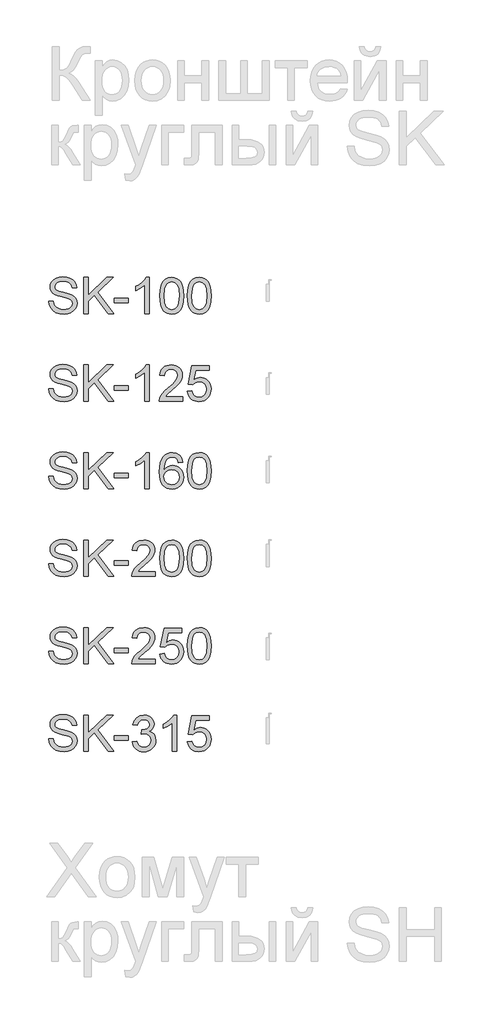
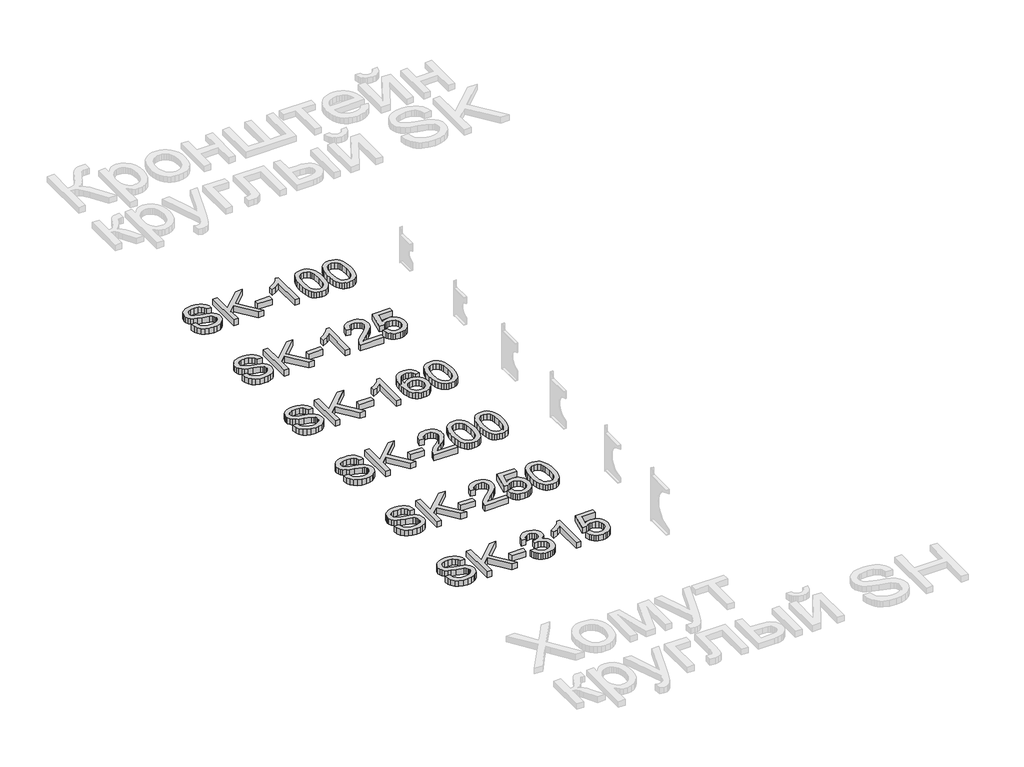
# One storey, part 5 of 31: 1 proxy.
"""IFC4 building model written with IfcOpenShell, lengths in millimetres."""

from ifc_helpers import new_model, si_unit, origin, origin_with_axes, place, context, project, spatial, polyline, outline, extrude, element, save

model = new_model("IFC4")

# Units and contexts
model_context = context("Model", 3, world=origin())
ifc_project = project(units=[si_unit("LENGTHUNIT", "METRE", prefix="MILLI")], contexts=[model_context])

# Site, building, storey
site = spatial("IfcSite", under=ifc_project)
building = spatial("IfcBuilding", under=site)
storey = spatial("IfcBuildingStorey", under=building, Name="Этаж 01", Elevation=0.0)

# Proxy
placement = place(None, origin())
element("IfcBuildingElementProxy", 1, Name="300 мм Arial", ObjectType="300 мм Arial", at=placement, inside=storey, context=model_context, shape_type="SweptSolid", body=[
    extrude(outline(polyline([(10389.7433415, -38401.6957444), (10427.4144578, -38401.6957444), (10431.7370713, -38422.6006388), (10439.5545637, -38439.4036489), (10451.7498518, -38452.7393712), (10469.2058525, -38463.2424022), (10490.5430082, -38470.0574161), (10514.3817615, -38472.3290875), (10535.3694293, -38470.6092391), (10553.745135, -38465.4496941), (10568.6351587, -38457.2827139), (10579.1657809, -38446.5405596), (10585.4289718, -38434.2073157), (10587.5167022, -38421.2670665), (10585.9532037, -38408.6579111), (10581.2627082, -38397.759407), (10571.7345646, -38388.4611896), (10555.6581214, -38380.6528943), (10500.8069159, -38366.2687082), (10464.8004656, -38356.7497616), (10441.7618557, -38347.6906675), (10423.009071, -38335.0171328), (10409.7193339, -38319.6580595), (10401.8006739, -38301.9445414), (10399.1611206, -38282.2076723), (10402.4260733, -38260.1439497), (10412.2209314, -38239.5701491), (10428.2881776, -38222.1325425), (10450.3702943, -38209.4774019), (10476.8761921, -38201.7794712), (10506.2147812, -38199.2134942), (10537.9997856, -38201.8990328), (10565.8116644, -38209.9556485), (10588.6571363, -38223.2177944), (10605.5429199, -38241.5199237), (10616.2298919, -38263.7216021), (10620.4789289, -38288.6823955), (10582.8078126, -38288.6823955), (10575.8916311, -38266.2048056), (10561.4706569, -38249.9812096), (10538.9378847, -38240.1587603), (10507.6863092, -38236.8846105), (10475.6989697, -38240.1219721), (10453.7548087, -38249.8340568), (10441.0628799, -38264.1262723), (10436.8322369, -38281.1040264), (10439.8304752, -38295.5801829), (10448.82519, -38307.223648), (10470.0887693, -38317.6347085), (10510.3350596, -38328.2664981), (10551.8689368, -38338.3648589), (10576.9952771, -38347.1756327), (10598.4703886, -38360.8424488), (10613.4523828, -38377.7098383), (10622.2539595, -38397.5938601), (10625.1878185, -38420.3105733), (10621.8125012, -38443.5331243), (10611.6865492, -38465.3761177), (10595.2238299, -38484.1748877), (10572.8382105, -38498.2647681), (10545.9184455, -38507.0663449), (10515.8532895, -38510.0002038), (10478.9455283, -38506.8364186), (10448.5676726, -38497.3450631), (10424.3702343, -38481.4893491), (10406.0037257, -38459.2324884), (10394.2131078, -38432.1195854), (10389.7433415, -38401.6957444)])), origin_with_axes(), (0.0, 0.0, 1.0), 50.0),
    extrude(outline(polyline([(10681.6944929, -38505.2913142), (10681.6944929, -38203.9223838), (10719.3656092, -38203.9223838), (10719.3656092, -38351.4430638), (10873.8760472, -38203.9223838), (10926.5567489, -38203.9223838), (10796.8415574, -38327.8250398), (10931.2656384, -38505.2913142), (10885.2068126, -38505.2913142), (10770.1333246, -38353.2824738), (10719.3656092, -38401.6957444), (10719.3656092, -38505.2913142), (10681.6944929, -38505.2913142)])), origin_with_axes(), (0.0, 0.0, 1.0), 50.0),
    extrude(outline(polyline([(10935.974528, -38415.822413), (10935.974528, -38378.1512967), (11053.6967664, -38378.1512967), (11053.6967664, -38415.822413), (10935.974528, -38415.822413)])), origin_with_axes(), (0.0, 0.0, 1.0), 50.0),
    extrude(outline(polyline([(11227.9256794, -38505.2913142), (11190.254563, -38505.2913142), (11190.254563, -38270.4354485), (11154.5700095, -38295.8560944), (11114.9123304, -38314.8755935), (11114.9123304, -38279.2646164), (11144.4992399, -38263.1697791), (11170.1314179, -38244.0215212), (11190.3373365, -38223.6592528), (11203.6454677, -38203.9223838), (11227.9256794, -38203.9223838), (11227.9256794, -38505.2913142)])), origin_with_axes(), (0.0, 0.0, 1.0), 50.0),
    extrude(outline(polyline([(11317.3945806, -38357.0348702), (11320.1628926, -38308.7963435), (11328.4678286, -38270.3250839), (11342.2266153, -38241.03248), (11361.356479, -38220.3299208), (11385.9953756, -38208.024268), (11416.2812609, -38203.9223838), (11439.4946148, -38206.3504049), (11460.2799475, -38213.6344684), (11477.6623718, -38225.4894657), (11490.6670003, -38241.6302883), (11500.4894496, -38261.9189803), (11508.3253361, -38286.2175861), (11513.4572899, -38317.0736884), (11515.1679412, -38357.0348702), (11512.4272203, -38404.9974853), (11504.2050577, -38443.3767744), (11490.5290446, -38472.6969695), (11471.426772, -38493.4823022), (11446.732693, -38505.8707284), (11416.2812609, -38510.0002038), (11395.5327164, -38508.206779), (11377.1386166, -38502.8265049), (11361.0989616, -38493.8593812), (11347.4137514, -38481.3054081), (11334.2803642, -38458.6116876), (11324.8993733, -38430.3353577), (11319.2707788, -38396.4764186), (11317.3945806, -38357.0348702)]), holes=[polyline([(11355.0656969, -38356.9612938), (11359.4802808, -38416.2178861), (11364.9985108, -38436.4858848), (11372.7240327, -38450.5136851), (11392.4425076, -38466.8752369), (11416.2812609, -38472.3290875), (11440.1200142, -38466.8568428), (11459.8384891, -38450.4401087), (11467.564011, -38436.3893158), (11473.0822409, -38416.1259156), (11477.4968249, -38356.9612938), (11473.2293937, -38299.0382736), (11467.8951048, -38278.8369536), (11460.4271003, -38264.4757602), (11440.7454136, -38247.3140651), (11415.8398025, -38241.5935001), (11392.2585666, -38246.6334834), (11373.3126438, -38261.7534334), (11365.3296046, -38277.3884182), (11359.6274336, -38298.4680565), (11355.0656969, -38356.9612938)])]), origin_with_axes(), (0.0, 0.0, 1.0), 50.0),
    extrude(outline(polyline([(11548.130168, -38357.0348702), (11550.89848, -38308.7963435), (11559.203416, -38270.3250839), (11572.9622026, -38241.03248), (11592.0920664, -38220.3299208), (11616.730963, -38208.024268), (11647.0168483, -38203.9223838), (11670.2302022, -38206.3504049), (11691.0155349, -38213.6344684), (11708.3979592, -38225.4894657), (11721.4025877, -38241.6302883), (11731.225037, -38261.9189803), (11739.0609235, -38286.2175861), (11744.1928773, -38317.0736884), (11745.9035286, -38357.0348702), (11743.1628077, -38404.9974853), (11734.9406451, -38443.3767744), (11721.2646319, -38472.6969695), (11702.1623593, -38493.4823022), (11677.4682804, -38505.8707284), (11647.0168483, -38510.0002038), (11626.2683037, -38508.206779), (11607.874204, -38502.8265049), (11591.834549, -38493.8593812), (11578.1493388, -38481.3054081), (11565.0159515, -38458.6116876), (11555.6349607, -38430.3353577), (11550.0063661, -38396.4764186), (11548.130168, -38357.0348702)]), holes=[polyline([(11585.8012843, -38356.9612938), (11590.2158682, -38416.2178861), (11595.7340981, -38436.4858848), (11603.45962, -38450.5136851), (11623.178095, -38466.8752369), (11647.0168483, -38472.3290875), (11670.8556015, -38466.8568428), (11690.5740765, -38450.4401087), (11698.2995984, -38436.3893158), (11703.8178283, -38416.1259156), (11708.2324123, -38356.9612938), (11703.9649811, -38299.0382736), (11698.6306922, -38278.8369536), (11691.1626877, -38264.4757602), (11671.4810009, -38247.3140651), (11646.5753899, -38241.5935001), (11622.994154, -38246.6334834), (11604.0482312, -38261.7534334), (11596.0651919, -38277.3884182), (11590.363021, -38298.4680565), (11585.8012843, -38356.9612938)])]), origin_with_axes(), (0.0, 0.0, 1.0), 50.0),
    extrude(outline(polyline([(10389.7433415, -39133.5446515), (10427.4144578, -39133.5446515), (10431.7370713, -39154.4495458), (10439.5545637, -39171.252556), (10451.7498518, -39184.5882783), (10469.2058525, -39195.0913092), (10490.5430082, -39201.9063232), (10514.3817615, -39204.1779945), (10535.3694293, -39202.4581462), (10553.745135, -39197.2986012), (10568.6351587, -39189.1316209), (10579.1657809, -39178.3894667), (10585.4289718, -39166.0562228), (10587.5167022, -39153.1159736), (10585.9532037, -39140.5068182), (10581.2627082, -39129.6083141), (10571.7345646, -39120.3100967), (10555.6581214, -39112.5018013), (10500.8069159, -39098.1176153), (10464.8004656, -39088.5986687), (10441.7618557, -39079.5395746), (10423.009071, -39066.8660398), (10409.7193339, -39051.5069665), (10401.8006739, -39033.7934485), (10399.1611206, -39014.0565794), (10402.4260733, -38991.9928568), (10412.2209314, -38971.4190562), (10428.2881776, -38953.9814496), (10450.3702943, -38941.326309), (10476.8761921, -38933.6283782), (10506.2147812, -38931.0624013), (10537.9997856, -38933.7479399), (10565.8116644, -38941.8045556), (10588.6571363, -38955.0667015), (10605.5429199, -38973.3688308), (10616.2298919, -38995.5705092), (10620.4789289, -39020.5313025), (10582.8078126, -39020.5313025), (10575.8916311, -38998.0537126), (10561.4706569, -38981.8301166), (10538.9378847, -38972.0076674), (10507.6863092, -38968.7335176), (10475.6989697, -38971.9708792), (10453.7548087, -38981.6829638), (10441.0628799, -38995.9751794), (10436.8322369, -39012.9529334), (10439.8304752, -39027.4290899), (10448.82519, -39039.0725551), (10470.0887693, -39049.4836156), (10510.3350596, -39060.1154052), (10551.8689368, -39070.213766), (10576.9952771, -39079.0245398), (10598.4703886, -39092.6913559), (10613.4523828, -39109.5587454), (10622.2539595, -39129.4427672), (10625.1878185, -39152.1594804), (10621.8125012, -39175.3820314), (10611.6865492, -39197.2250248), (10595.2238299, -39216.0237948), (10572.8382105, -39230.1136752), (10545.9184455, -39238.9152519), (10515.8532895, -39241.8491108), (10478.9455283, -39238.6853257), (10448.5676726, -39229.1939702), (10424.3702343, -39213.3382562), (10406.0037257, -39191.0813955), (10394.2131078, -39163.9684925), (10389.7433415, -39133.5446515)])), origin_with_axes(), (0.0, 0.0, 1.0), 50.0),
    extrude(outline(polyline([(10681.6944929, -39237.1402213), (10681.6944929, -38935.7712908), (10719.3656092, -38935.7712908), (10719.3656092, -39083.2919709), (10873.8760472, -38935.7712908), (10926.5567489, -38935.7712908), (10796.8415574, -39059.6739468), (10931.2656384, -39237.1402213), (10885.2068126, -39237.1402213), (10770.1333246, -39085.1313809), (10719.3656092, -39133.5446515), (10719.3656092, -39237.1402213), (10681.6944929, -39237.1402213)])), origin_with_axes(), (0.0, 0.0, 1.0), 50.0),
    extrude(outline(polyline([(10935.974528, -39147.6713201), (10935.974528, -39110.0002038), (11053.6967664, -39110.0002038), (11053.6967664, -39147.6713201), (10935.974528, -39147.6713201)])), origin_with_axes(), (0.0, 0.0, 1.0), 50.0),
    extrude(outline(polyline([(11227.9256794, -39237.1402213), (11190.254563, -39237.1402213), (11190.254563, -39002.2843556), (11154.5700095, -39027.7050014), (11114.9123304, -39046.7245006), (11114.9123304, -39011.1135235), (11144.4992399, -38995.0186862), (11170.1314179, -38975.8704283), (11190.3373365, -38955.5081599), (11203.6454677, -38935.7712908), (11227.9256794, -38935.7712908), (11227.9256794, -39237.1402213)])), origin_with_axes(), (0.0, 0.0, 1.0), 50.0),
    extrude(outline(polyline([(11510.4590516, -39199.469105), (11510.4590516, -39237.1402213), (11312.685691, -39237.1402213), (11316.732393, -39211.1677524), (11326.0214134, -39190.8698634), (11339.6146531, -39171.1789796), (11359.2779457, -39150.5683908), (11386.7771249, -39127.5113867), (11427.4280853, -39091.4037689), (11451.8186616, -39064.7507184), (11464.0139498, -39043.119257), (11468.0790458, -39022.0764069), (11464.243876, -39003.2132576), (11452.7383666, -38987.5322876), (11435.0524397, -38976.9648773), (11412.6760173, -38973.4424072), (11389.1775549, -38976.8821038), (11370.9214109, -38987.2011938), (11359.13999, -39003.5903367), (11355.0656969, -39025.2401921), (11317.3945806, -39020.5313025), (11326.5272511, -38984.0925909), (11335.0736097, -38969.5566536), (11346.2733172, -38957.4763286), (11359.8688562, -38947.9803746), (11375.6027093, -38941.1975503), (11413.4853577, -38935.7712908), (11433.6751815, -38937.279607), (11451.6439177, -38941.8045556), (11467.3915663, -38949.3461365), (11480.9181274, -38959.9043497), (11491.7821426, -38972.6974461), (11499.5421534, -38986.9436764), (11504.1981599, -39002.6430405), (11505.7501621, -39019.7955385), (11504.076299, -39037.8125593), (11499.0547098, -39055.5168803), (11490.1427685, -39073.5247039), (11476.7978491, -39092.4522326), (11455.5250727, -39115.0493841), (11422.8295604, -39144.0660765), (11379.4930614, -39180.302453), (11362.4969132, -39199.469105), (11510.4590516, -39199.469105)])), origin_with_axes(), (0.0, 0.0, 1.0), 50.0),
    extrude(outline(polyline([(11548.130168, -39157.0890991), (11585.8012843, -39152.3802096), (11592.7174658, -39174.9957553), (11604.7839952, -39191.1917601), (11621.9456903, -39200.9314359), (11644.1473687, -39204.1779945), (11671.1499071, -39199.662243), (11691.3834169, -39186.1149886), (11704.0201634, -39165.0997296), (11708.2324123, -39138.1799646), (11704.2868779, -39112.8328951), (11692.4502747, -39093.445514), (11672.6306322, -39081.1398612), (11644.7359799, -39077.037977), (11626.4614418, -39078.6750519), (11611.6633885, -39083.5862765), (11590.5101738, -39100.5824247), (11552.8390575, -39095.8735351), (11585.8012843, -38940.4801804), (11731.7768599, -38940.4801804), (11731.7768599, -38978.1512967), (11616.2619135, -38978.1512967), (11600.1486821, -39061.1454748), (11627.05925, -39044.8115142), (11655.257405, -39039.3668607), (11673.6032202, -39041.0545193), (11690.4545148, -39046.1174953), (11705.8112889, -39054.5557886), (11719.6735423, -39066.3693991), (11731.1491613, -39080.8363586), (11739.346032, -39097.2346985), (11744.2641544, -39115.5644189), (11745.9035286, -39135.8255198), (11739.9990225, -39173.4966361), (11732.61839, -39190.2904492), (11722.2855045, -39205.7230989), (11706.6321256, -39221.5282291), (11688.3667845, -39232.8176079), (11667.4894813, -39239.5912351), (11644.0002159, -39241.8491108), (11607.0004842, -39236.0457724), (11591.3218135, -39228.7915993), (11577.5239394, -39218.6357569), (11566.0437219, -39206.0840831), (11557.3180208, -39191.6424155), (11548.130168, -39157.0890991)])), origin_with_axes(), (0.0, 0.0, 1.0), 50.0),
    extrude(outline(polyline([(10389.7433415, -39865.3935585), (10427.4144578, -39865.3935585), (10431.7370713, -39886.2984529), (10439.5545637, -39903.101463), (10451.7498518, -39916.4371854), (10469.2058525, -39926.9402163), (10490.5430082, -39933.7552303), (10514.3817615, -39936.0269016), (10535.3694293, -39934.3070533), (10553.745135, -39929.1475083), (10568.6351587, -39920.980528), (10579.1657809, -39910.2383737), (10585.4289718, -39897.9051298), (10587.5167022, -39884.9648807), (10585.9532037, -39872.3557253), (10581.2627082, -39861.4572212), (10571.7345646, -39852.1590037), (10555.6581214, -39844.3507084), (10500.8069159, -39829.9665224), (10464.8004656, -39820.4475758), (10441.7618557, -39811.3884816), (10423.009071, -39798.7149469), (10409.7193339, -39783.3558736), (10401.8006739, -39765.6423555), (10399.1611206, -39745.9054865), (10402.4260733, -39723.8417638), (10412.2209314, -39703.2679633), (10428.2881776, -39685.8303567), (10450.3702943, -39673.175216), (10476.8761921, -39665.4772853), (10506.2147812, -39662.9113084), (10537.9997856, -39665.5968469), (10565.8116644, -39673.6534626), (10588.6571363, -39686.9156086), (10605.5429199, -39705.2177378), (10616.2298919, -39727.4194162), (10620.4789289, -39752.3802096), (10582.8078126, -39752.3802096), (10575.8916311, -39729.9026197), (10561.4706569, -39713.6790237), (10538.9378847, -39703.8565744), (10507.6863092, -39700.5824247), (10475.6989697, -39703.8197862), (10453.7548087, -39713.5318709), (10441.0628799, -39727.8240864), (10436.8322369, -39744.8018405), (10439.8304752, -39759.277997), (10448.82519, -39770.9214622), (10470.0887693, -39781.3325226), (10510.3350596, -39791.9643123), (10551.8689368, -39802.0626731), (10576.9952771, -39810.8734468), (10598.4703886, -39824.540263), (10613.4523828, -39841.4076524), (10622.2539595, -39861.2916743), (10625.1878185, -39884.0083875), (10621.8125012, -39907.2309384), (10611.6865492, -39929.0739319), (10595.2238299, -39947.8727018), (10572.8382105, -39961.9625823), (10545.9184455, -39970.764159), (10515.8532895, -39973.6980179), (10478.9455283, -39970.5342327), (10448.5676726, -39961.0428773), (10424.3702343, -39945.1871633), (10406.0037257, -39922.9303026), (10394.2131078, -39895.8173995), (10389.7433415, -39865.3935585)])), origin_with_axes(), (0.0, 0.0, 1.0), 50.0),
    extrude(outline(polyline([(10681.6944929, -39968.9891284), (10681.6944929, -39667.6201979), (10719.3656092, -39667.6201979), (10719.3656092, -39815.140878), (10873.8760472, -39667.6201979), (10926.5567489, -39667.6201979), (10796.8415574, -39791.5228539), (10931.2656384, -39968.9891284), (10885.2068126, -39968.9891284), (10770.1333246, -39816.980288), (10719.3656092, -39865.3935585), (10719.3656092, -39968.9891284), (10681.6944929, -39968.9891284)])), origin_with_axes(), (0.0, 0.0, 1.0), 50.0),
    extrude(outline(polyline([(10935.974528, -39879.5202271), (10935.974528, -39841.8491108), (11053.6967664, -39841.8491108), (11053.6967664, -39879.5202271), (10935.974528, -39879.5202271)])), origin_with_axes(), (0.0, 0.0, 1.0), 50.0),
    extrude(outline(polyline([(11227.9256794, -39968.9891284), (11190.254563, -39968.9891284), (11190.254563, -39734.1332626), (11154.5700095, -39759.5539085), (11114.9123304, -39778.5734077), (11114.9123304, -39742.9624305), (11144.4992399, -39726.8675932), (11170.1314179, -39707.7193354), (11190.3373365, -39687.357067), (11203.6454677, -39667.6201979), (11227.9256794, -39667.6201979), (11227.9256794, -39968.9891284)])), origin_with_axes(), (0.0, 0.0, 1.0), 50.0),
    extrude(outline(polyline([(11510.4590516, -39747.6713201), (11472.7879353, -39752.3802096), (11466.7178824, -39733.7101984), (11458.5141139, -39720.9630872), (11441.4259953, -39709.2092575), (11420.7694212, -39705.2913142), (11403.2582383, -39707.5721826), (11386.7771249, -39714.4147877), (11372.6228651, -39728.8265649), (11361.0621734, -39748.6646015), (11353.2538781, -39776.7248006), (11350.3568073, -39815.8030656), (11365.4675603, -39798.172321), (11383.5765515, -39785.7471066), (11403.6721055, -39778.3802696), (11424.7425468, -39775.9246573), (11442.8423409, -39777.6031189), (11459.5441835, -39782.6385037), (11474.8480745, -39791.0308117), (11488.7540139, -39802.7800429), (11500.3101071, -39817.1872216), (11508.5644594, -39833.5533718), (11513.5170707, -39851.8784937), (11515.1679412, -39872.1625872), (11512.0593383, -39899.1375345), (11502.7335298, -39924.1443132), (11487.9630676, -39945.3527102), (11468.5205042, -39960.9325127), (11445.2887562, -39970.5066416), (11419.1507404, -39973.6980179), (11396.6938439, -39971.5826964), (11376.4120497, -39965.236732), (11358.3053577, -39954.6601247), (11342.3737681, -39939.8528743), (11329.3852344, -39920.1895817), (11320.1077103, -39895.0448473), (11314.5411959, -39864.4186712), (11312.685691, -39828.3110534), (11314.7458302, -39787.8302384), (11320.9262477, -39753.2815205), (11331.2269436, -39724.6648998), (11345.6479178, -39701.9803763), (11361.2783041, -39686.9477982), (11379.4010909, -39676.2102425), (11400.0162782, -39669.7677091), (11423.123866, -39667.6201979), (11456.1780633, -39672.9360927), (11482.6471728, -39688.8837772), (11501.1884254, -39714.2124526), (11510.4590516, -39747.6713201)]), holes=[polyline([(11350.3568073, -39871.573976), (11352.5365082, -39888.2666216), (11359.0756106, -39904.205109), (11369.2291537, -39917.9087133), (11382.2521763, -39927.8967095), (11397.9699346, -39933.9943536), (11416.2076845, -39936.0269016), (11441.0673103, -39931.8146528), (11460.6110413, -39919.1779062), (11473.275379, -39899.3122785), (11477.4968249, -39873.413386), (11473.3305613, -39848.5537602), (11460.8317705, -39829.5986404), (11440.9569457, -39817.5964903), (11414.6625801, -39813.5957736), (11389.8397425, -39817.5964903), (11369.0820009, -39829.5986404), (11355.0381057, -39848.0939077), (11350.3568073, -39871.573976)])]), origin_with_axes(), (0.0, 0.0, 1.0), 50.0),
    extrude(outline(polyline([(11548.130168, -39820.7326843), (11550.89848, -39772.4941577), (11559.203416, -39734.022898), (11572.9622026, -39704.7302942), (11592.0920664, -39684.0277349), (11616.730963, -39671.7220822), (11647.0168483, -39667.6201979), (11670.2302022, -39670.0482191), (11691.0155349, -39677.3322826), (11708.3979592, -39689.1872799), (11721.4025877, -39705.3281024), (11731.225037, -39725.6167945), (11739.0609235, -39749.9154002), (11744.1928773, -39780.7715026), (11745.9035286, -39820.7326843), (11743.1628077, -39868.6952994), (11734.9406451, -39907.0745886), (11721.2646319, -39936.3947836), (11702.1623593, -39957.1801163), (11677.4682804, -39969.5685425), (11647.0168483, -39973.6980179), (11626.2683037, -39971.9045932), (11607.874204, -39966.524319), (11591.834549, -39957.5571954), (11578.1493388, -39945.0032223), (11565.0159515, -39922.3095017), (11555.6349607, -39894.0331718), (11550.0063661, -39860.1742327), (11548.130168, -39820.7326843)]), holes=[polyline([(11585.8012843, -39820.6591079), (11590.2158682, -39879.9157003), (11595.7340981, -39900.183699), (11603.45962, -39914.2114993), (11623.178095, -39930.573051), (11647.0168483, -39936.0269016), (11670.8556015, -39930.5546569), (11690.5740765, -39914.1379229), (11698.2995984, -39900.0871299), (11703.8178283, -39879.8237298), (11708.2324123, -39820.6591079), (11703.9649811, -39762.7360878), (11698.6306922, -39742.5347677), (11691.1626877, -39728.1735743), (11671.4810009, -39711.0118792), (11646.5753899, -39705.2913142), (11622.994154, -39710.3312976), (11604.0482312, -39725.4512476), (11596.0651919, -39741.0862324), (11590.363021, -39762.1658707), (11585.8012843, -39820.6591079)])]), origin_with_axes(), (0.0, 0.0, 1.0), 50.0),
    extrude(outline(polyline([(10389.7433415, -40597.2424656), (10427.4144578, -40597.2424656), (10431.7370713, -40618.14736), (10439.5545637, -40634.9503701), (10451.7498518, -40648.2860924), (10469.2058525, -40658.7891234), (10490.5430082, -40665.6041373), (10514.3817615, -40667.8758087), (10535.3694293, -40666.1559603), (10553.745135, -40660.9964154), (10568.6351587, -40652.8294351), (10579.1657809, -40642.0872808), (10585.4289718, -40629.7540369), (10587.5167022, -40616.8137877), (10585.9532037, -40604.2046324), (10581.2627082, -40593.3061282), (10571.7345646, -40584.0079108), (10555.6581214, -40576.1996155), (10500.8069159, -40561.8154295), (10464.8004656, -40552.2964828), (10441.7618557, -40543.2373887), (10423.009071, -40530.563854), (10409.7193339, -40515.2047807), (10401.8006739, -40497.4912626), (10399.1611206, -40477.7543936), (10402.4260733, -40455.6906709), (10412.2209314, -40435.1168703), (10428.2881776, -40417.6792638), (10450.3702943, -40405.0241231), (10476.8761921, -40397.3261924), (10506.2147812, -40394.7602155), (10537.9997856, -40397.445754), (10565.8116644, -40405.5023697), (10588.6571363, -40418.7645156), (10605.5429199, -40437.0666449), (10616.2298919, -40459.2683233), (10620.4789289, -40484.2291167), (10582.8078126, -40484.2291167), (10575.8916311, -40461.7515268), (10561.4706569, -40445.5279308), (10538.9378847, -40435.7054815), (10507.6863092, -40432.4313318), (10475.6989697, -40435.6686933), (10453.7548087, -40445.380778), (10441.0628799, -40459.6729935), (10436.8322369, -40476.6507476), (10439.8304752, -40491.1269041), (10448.82519, -40502.7703692), (10470.0887693, -40513.1814297), (10510.3350596, -40523.8132194), (10551.8689368, -40533.9115801), (10576.9952771, -40542.7223539), (10598.4703886, -40556.38917), (10613.4523828, -40573.2565595), (10622.2539595, -40593.1405813), (10625.1878185, -40615.8572946), (10621.8125012, -40639.0798455), (10611.6865492, -40660.922839), (10595.2238299, -40679.7216089), (10572.8382105, -40693.8114893), (10545.9184455, -40702.6130661), (10515.8532895, -40705.546925), (10478.9455283, -40702.3831398), (10448.5676726, -40692.8917843), (10424.3702343, -40677.0360703), (10406.0037257, -40654.7792096), (10394.2131078, -40627.6663066), (10389.7433415, -40597.2424656)])), origin_with_axes(), (0.0, 0.0, 1.0), 50.0),
    extrude(outline(polyline([(10681.6944929, -40700.8380354), (10681.6944929, -40399.469105), (10719.3656092, -40399.469105), (10719.3656092, -40546.9897851), (10873.8760472, -40399.469105), (10926.5567489, -40399.469105), (10796.8415574, -40523.371761), (10931.2656384, -40700.8380354), (10885.2068126, -40700.8380354), (10770.1333246, -40548.829195), (10719.3656092, -40597.2424656), (10719.3656092, -40700.8380354), (10681.6944929, -40700.8380354)])), origin_with_axes(), (0.0, 0.0, 1.0), 50.0),
    extrude(outline(polyline([(10935.974528, -40611.3691342), (10935.974528, -40573.6980179), (11053.6967664, -40573.6980179), (11053.6967664, -40611.3691342), (10935.974528, -40611.3691342)])), origin_with_axes(), (0.0, 0.0, 1.0), 50.0),
    extrude(outline(polyline([(11279.7234643, -40663.1669191), (11279.7234643, -40700.8380354), (11081.9501037, -40700.8380354), (11085.9968056, -40674.8655666), (11095.285826, -40654.5676775), (11108.8790657, -40634.8767937), (11128.5423584, -40614.2662049), (11156.0415375, -40591.2092009), (11196.692498, -40555.101583), (11221.0830742, -40528.4485325), (11233.2783624, -40506.8170712), (11237.3434584, -40485.7742211), (11233.5082886, -40466.9110718), (11222.0027792, -40451.2301017), (11204.3168523, -40440.6626914), (11181.94043, -40437.1402213), (11158.4419675, -40440.579918), (11140.1858235, -40450.8990079), (11128.4044026, -40467.2881508), (11124.3301095, -40488.9380062), (11086.6589932, -40484.2291167), (11095.7916637, -40447.7904051), (11104.3380223, -40433.2544677), (11115.5377298, -40421.1741427), (11129.1332688, -40411.6781887), (11144.8671219, -40404.8953644), (11182.7497703, -40399.469105), (11202.9395941, -40400.9774212), (11220.9083303, -40405.5023697), (11236.655979, -40413.0439506), (11250.1825401, -40423.6021639), (11261.0465552, -40436.3952603), (11268.8065661, -40450.6414905), (11273.4625726, -40466.3408547), (11275.0145747, -40483.4933527), (11273.3407117, -40501.5103734), (11268.3191224, -40519.2146944), (11259.4071811, -40537.2225181), (11246.0622617, -40556.1500467), (11224.7894853, -40578.7471983), (11192.093973, -40607.7638907), (11148.757474, -40644.0002672), (11131.7613258, -40663.1669191), (11279.7234643, -40663.1669191)])), origin_with_axes(), (0.0, 0.0, 1.0), 50.0),
    extrude(outline(polyline([(11317.3945806, -40552.5815914), (11320.1628926, -40504.3430648), (11328.4678286, -40465.8718051), (11342.2266153, -40436.5792013), (11361.356479, -40415.876642), (11385.9953756, -40403.5709892), (11416.2812609, -40399.469105), (11439.4946148, -40401.8971262), (11460.2799475, -40409.1811897), (11477.6623718, -40421.036187), (11490.6670003, -40437.1770095), (11500.4894496, -40457.4657015), (11508.3253361, -40481.7643073), (11513.4572899, -40512.6204097), (11515.1679412, -40552.5815914), (11512.4272203, -40600.5442065), (11504.2050577, -40638.9234956), (11490.5290446, -40668.2436907), (11471.426772, -40689.0290234), (11446.732693, -40701.4174496), (11416.2812609, -40705.546925), (11395.5327164, -40703.7535002), (11377.1386166, -40698.3732261), (11361.0989616, -40689.4061024), (11347.4137514, -40676.8521294), (11334.2803642, -40654.1584088), (11324.8993733, -40625.8820789), (11319.2707788, -40592.0231398), (11317.3945806, -40552.5815914)]), holes=[polyline([(11355.0656969, -40552.508015), (11359.4802808, -40611.7646074), (11364.9985108, -40632.032606), (11372.7240327, -40646.0604064), (11392.4425076, -40662.4219581), (11416.2812609, -40667.8758087), (11440.1200142, -40662.403564), (11459.8384891, -40645.98683), (11467.564011, -40631.936037), (11473.0822409, -40611.6726369), (11477.4968249, -40552.508015), (11473.2293937, -40494.5849948), (11467.8951048, -40474.3836748), (11460.4271003, -40460.0224814), (11440.7454136, -40442.8607863), (11415.8398025, -40437.1402213), (11392.2585666, -40442.1802046), (11373.3126438, -40457.3001546), (11365.3296046, -40472.9351394), (11359.6274336, -40494.0147777), (11355.0656969, -40552.508015)])]), origin_with_axes(), (0.0, 0.0, 1.0), 50.0),
    extrude(outline(polyline([(11548.130168, -40552.5815914), (11550.89848, -40504.3430648), (11559.203416, -40465.8718051), (11572.9622026, -40436.5792013), (11592.0920664, -40415.876642), (11616.730963, -40403.5709892), (11647.0168483, -40399.469105), (11670.2302022, -40401.8971262), (11691.0155349, -40409.1811897), (11708.3979592, -40421.036187), (11721.4025877, -40437.1770095), (11731.225037, -40457.4657015), (11739.0609235, -40481.7643073), (11744.1928773, -40512.6204097), (11745.9035286, -40552.5815914), (11743.1628077, -40600.5442065), (11734.9406451, -40638.9234956), (11721.2646319, -40668.2436907), (11702.1623593, -40689.0290234), (11677.4682804, -40701.4174496), (11647.0168483, -40705.546925), (11626.2683037, -40703.7535002), (11607.874204, -40698.3732261), (11591.834549, -40689.4061024), (11578.1493388, -40676.8521294), (11565.0159515, -40654.1584088), (11555.6349607, -40625.8820789), (11550.0063661, -40592.0231398), (11548.130168, -40552.5815914)]), holes=[polyline([(11585.8012843, -40552.508015), (11590.2158682, -40611.7646074), (11595.7340981, -40632.032606), (11603.45962, -40646.0604064), (11623.178095, -40662.4219581), (11647.0168483, -40667.8758087), (11670.8556015, -40662.403564), (11690.5740765, -40645.98683), (11698.2995984, -40631.936037), (11703.8178283, -40611.6726369), (11708.2324123, -40552.508015), (11703.9649811, -40494.5849948), (11698.6306922, -40474.3836748), (11691.1626877, -40460.0224814), (11671.4810009, -40442.8607863), (11646.5753899, -40437.1402213), (11622.994154, -40442.1802046), (11604.0482312, -40457.3001546), (11596.0651919, -40472.9351394), (11590.363021, -40494.0147777), (11585.8012843, -40552.508015)])]), origin_with_axes(), (0.0, 0.0, 1.0), 50.0),
    extrude(outline(polyline([(10389.7433415, -41329.0913727), (10427.4144578, -41329.0913727), (10431.7370713, -41349.996267), (10439.5545637, -41366.7992772), (10451.7498518, -41380.1349995), (10469.2058525, -41390.6380305), (10490.5430082, -41397.4530444), (10514.3817615, -41399.7247157), (10535.3694293, -41398.0048674), (10553.745135, -41392.8453224), (10568.6351587, -41384.6783421), (10579.1657809, -41373.9361879), (10585.4289718, -41361.602944), (10587.5167022, -41348.6626948), (10585.9532037, -41336.0535394), (10581.2627082, -41325.1550353), (10571.7345646, -41315.8568179), (10555.6581214, -41308.0485225), (10500.8069159, -41293.6643365), (10464.8004656, -41284.1453899), (10441.7618557, -41275.0862958), (10423.009071, -41262.412761), (10409.7193339, -41247.0536877), (10401.8006739, -41229.3401697), (10399.1611206, -41209.6033006), (10402.4260733, -41187.539578), (10412.2209314, -41166.9657774), (10428.2881776, -41149.5281708), (10450.3702943, -41136.8730302), (10476.8761921, -41129.1750994), (10506.2147812, -41126.6091225), (10537.9997856, -41129.2946611), (10565.8116644, -41137.3512768), (10588.6571363, -41150.6134227), (10605.5429199, -41168.915552), (10616.2298919, -41191.1172304), (10620.4789289, -41216.0780237), (10582.8078126, -41216.0780237), (10575.8916311, -41193.6004338), (10561.4706569, -41177.3768379), (10538.9378847, -41167.5543886), (10507.6863092, -41164.2802388), (10475.6989697, -41167.5176004), (10453.7548087, -41177.2296851), (10441.0628799, -41191.5219006), (10436.8322369, -41208.4996546), (10439.8304752, -41222.9758112), (10448.82519, -41234.6192763), (10470.0887693, -41245.0303368), (10510.3350596, -41255.6621264), (10551.8689368, -41265.7604872), (10576.9952771, -41274.571261), (10598.4703886, -41288.2380771), (10613.4523828, -41305.1054666), (10622.2539595, -41324.9894884), (10625.1878185, -41347.7062016), (10621.8125012, -41370.9287526), (10611.6865492, -41392.771746), (10595.2238299, -41411.570516), (10572.8382105, -41425.6603964), (10545.9184455, -41434.4619731), (10515.8532895, -41437.395832), (10478.9455283, -41434.2320469), (10448.5676726, -41424.7406914), (10424.3702343, -41408.8849774), (10406.0037257, -41386.6281167), (10394.2131078, -41359.5152137), (10389.7433415, -41329.0913727)])), origin_with_axes(), (0.0, 0.0, 1.0), 50.0),
    extrude(outline(polyline([(10681.6944929, -41432.6869425), (10681.6944929, -41131.3180121), (10719.3656092, -41131.3180121), (10719.3656092, -41278.8386921), (10873.8760472, -41131.3180121), (10926.5567489, -41131.3180121), (10796.8415574, -41255.220668), (10931.2656384, -41432.6869425), (10885.2068126, -41432.6869425), (10770.1333246, -41280.6781021), (10719.3656092, -41329.0913727), (10719.3656092, -41432.6869425), (10681.6944929, -41432.6869425)])), origin_with_axes(), (0.0, 0.0, 1.0), 50.0),
    extrude(outline(polyline([(10935.974528, -41343.2180413), (10935.974528, -41305.546925), (11053.6967664, -41305.546925), (11053.6967664, -41343.2180413), (10935.974528, -41343.2180413)])), origin_with_axes(), (0.0, 0.0, 1.0), 50.0),
    extrude(outline(polyline([(11279.7234643, -41395.0158262), (11279.7234643, -41432.6869425), (11081.9501037, -41432.6869425), (11085.9968056, -41406.7144736), (11095.285826, -41386.4165846), (11108.8790657, -41366.7257008), (11128.5423584, -41346.115112), (11156.0415375, -41323.0581079), (11196.692498, -41286.9504901), (11221.0830742, -41260.2974396), (11233.2783624, -41238.6659783), (11237.3434584, -41217.6231281), (11233.5082886, -41198.7599788), (11222.0027792, -41183.0790088), (11204.3168523, -41172.5115985), (11181.94043, -41168.9891284), (11158.4419675, -41172.428825), (11140.1858235, -41182.747915), (11128.4044026, -41199.1370579), (11124.3301095, -41220.7869133), (11086.6589932, -41216.0780237), (11095.7916637, -41179.6393121), (11104.3380223, -41165.1033748), (11115.5377298, -41153.0230498), (11129.1332688, -41143.5270958), (11144.8671219, -41136.7442715), (11182.7497703, -41131.3180121), (11202.9395941, -41132.8263282), (11220.9083303, -41137.3512768), (11236.655979, -41144.8928577), (11250.1825401, -41155.4510709), (11261.0465552, -41168.2441673), (11268.8065661, -41182.4903976), (11273.4625726, -41198.1897617), (11275.0145747, -41215.3422598), (11273.3407117, -41233.3592805), (11268.3191224, -41251.0636015), (11259.4071811, -41269.0714252), (11246.0622617, -41287.9989538), (11224.7894853, -41310.5961054), (11192.093973, -41339.6127977), (11148.757474, -41375.8491743), (11131.7613258, -41395.0158262), (11279.7234643, -41395.0158262)])), origin_with_axes(), (0.0, 0.0, 1.0), 50.0),
    extrude(outline(polyline([(11317.3945806, -41352.6358204), (11355.0656969, -41347.9269308), (11361.9818784, -41370.5424765), (11374.0484078, -41386.7384813), (11391.2101029, -41396.4781571), (11413.4117813, -41399.7247157), (11440.4143198, -41395.2089643), (11460.6478295, -41381.6617098), (11473.284576, -41360.6464508), (11477.4968249, -41333.7266858), (11473.5512905, -41308.3796163), (11461.7146873, -41288.9922352), (11441.8950448, -41276.6865825), (11414.0003925, -41272.5846982), (11395.7258544, -41274.2217731), (11380.9278011, -41279.1329977), (11359.7745864, -41296.1291459), (11322.1034701, -41291.4202564), (11355.0656969, -41136.0269016), (11501.0412726, -41136.0269016), (11501.0412726, -41173.6980179), (11385.5263261, -41173.6980179), (11369.4130947, -41256.692196), (11396.3236626, -41240.3582354), (11424.5218176, -41234.9135819), (11442.8676328, -41236.6012406), (11459.7189275, -41241.6642165), (11475.0757015, -41250.1025098), (11488.9379549, -41261.9161203), (11500.4135739, -41276.3830798), (11508.6104446, -41292.7814197), (11513.528567, -41311.1111402), (11515.1679412, -41331.372241), (11509.2634352, -41369.0433573), (11501.8828026, -41385.8371704), (11491.5499171, -41401.2698201), (11475.8965382, -41417.0749503), (11457.6311971, -41428.3643291), (11436.7538939, -41435.1379563), (11413.2646285, -41437.395832), (11376.2648969, -41431.5924936), (11360.5862261, -41424.3383205), (11346.788352, -41414.1824782), (11335.3081345, -41401.6308043), (11326.5824334, -41387.1891368), (11317.3945806, -41352.6358204)])), origin_with_axes(), (0.0, 0.0, 1.0), 50.0),
    extrude(outline(polyline([(11548.130168, -41284.4304985), (11550.89848, -41236.1919718), (11559.203416, -41197.7207122), (11572.9622026, -41168.4281083), (11592.0920664, -41147.725549), (11616.730963, -41135.4198963), (11647.0168483, -41131.3180121), (11670.2302022, -41133.7460332), (11691.0155349, -41141.0300967), (11708.3979592, -41152.885094), (11721.4025877, -41169.0259166), (11731.225037, -41189.3146086), (11739.0609235, -41213.6132144), (11744.1928773, -41244.4693167), (11745.9035286, -41284.4304985), (11743.1628077, -41332.3931136), (11734.9406451, -41370.7724027), (11721.2646319, -41400.0925977), (11702.1623593, -41420.8779305), (11677.4682804, -41433.2663567), (11647.0168483, -41437.395832), (11626.2683037, -41435.6024073), (11607.874204, -41430.2221331), (11591.834549, -41421.2550095), (11578.1493388, -41408.7010364), (11565.0159515, -41386.0073158), (11555.6349607, -41357.730986), (11550.0063661, -41323.8720469), (11548.130168, -41284.4304985)]), holes=[polyline([(11585.8012843, -41284.3569221), (11590.2158682, -41343.6135144), (11595.7340981, -41363.8815131), (11603.45962, -41377.9093134), (11623.178095, -41394.2708652), (11647.0168483, -41399.7247157), (11670.8556015, -41394.2524711), (11690.5740765, -41377.835737), (11698.2995984, -41363.7849441), (11703.8178283, -41343.5215439), (11708.2324123, -41284.3569221), (11703.9649811, -41226.4339019), (11698.6306922, -41206.2325819), (11691.1626877, -41191.8713885), (11671.4810009, -41174.7096934), (11646.5753899, -41168.9891284), (11622.994154, -41174.0291117), (11604.0482312, -41189.1490617), (11596.0651919, -41204.7840465), (11590.363021, -41225.8636848), (11585.8012843, -41284.3569221)])]), origin_with_axes(), (0.0, 0.0, 1.0), 50.0),
    extrude(outline(polyline([(10389.7433415, -42060.9402797), (10427.4144578, -42060.9402797), (10431.7370713, -42081.8451741), (10439.5545637, -42098.6481842), (10451.7498518, -42111.9839066), (10469.2058525, -42122.4869375), (10490.5430082, -42129.3019515), (10514.3817615, -42131.5736228), (10535.3694293, -42129.8537745), (10553.745135, -42124.6942295), (10568.6351587, -42116.5272492), (10579.1657809, -42105.785095), (10585.4289718, -42093.4518511), (10587.5167022, -42080.5116019), (10585.9532037, -42067.9024465), (10581.2627082, -42057.0039424), (10571.7345646, -42047.705725), (10555.6581214, -42039.8974296), (10500.8069159, -42025.5132436), (10464.8004656, -42015.994297), (10441.7618557, -42006.9352028), (10423.009071, -41994.2616681), (10409.7193339, -41978.9025948), (10401.8006739, -41961.1890767), (10399.1611206, -41941.4522077), (10402.4260733, -41919.388485), (10412.2209314, -41898.8146845), (10428.2881776, -41881.3770779), (10450.3702943, -41868.7219373), (10476.8761921, -41861.0240065), (10506.2147812, -41858.4580296), (10537.9997856, -41861.1435682), (10565.8116644, -41869.2001839), (10588.6571363, -41882.4623298), (10605.5429199, -41900.764459), (10616.2298919, -41922.9661374), (10620.4789289, -41947.9269308), (10582.8078126, -41947.9269308), (10575.8916311, -41925.4493409), (10561.4706569, -41909.2257449), (10538.9378847, -41899.4032957), (10507.6863092, -41896.1291459), (10475.6989697, -41899.3665075), (10453.7548087, -41909.0785921), (10441.0628799, -41923.3708076), (10436.8322369, -41940.3485617), (10439.8304752, -41954.8247182), (10448.82519, -41966.4681834), (10470.0887693, -41976.8792438), (10510.3350596, -41987.5110335), (10551.8689368, -41997.6093943), (10576.9952771, -42006.4201681), (10598.4703886, -42020.0869842), (10613.4523828, -42036.9543737), (10622.2539595, -42056.8383955), (10625.1878185, -42079.5551087), (10621.8125012, -42102.7776596), (10611.6865492, -42124.6206531), (10595.2238299, -42143.4194231), (10572.8382105, -42157.5093035), (10545.9184455, -42166.3108802), (10515.8532895, -42169.2447391), (10478.9455283, -42166.080954), (10448.5676726, -42156.5895985), (10424.3702343, -42140.7338845), (10406.0037257, -42118.4770238), (10394.2131078, -42091.3641207), (10389.7433415, -42060.9402797)])), origin_with_axes(), (0.0, 0.0, 1.0), 50.0),
    extrude(outline(polyline([(10681.6944929, -42164.5358496), (10681.6944929, -41863.1669191), (10719.3656092, -41863.1669191), (10719.3656092, -42010.6875992), (10873.8760472, -41863.1669191), (10926.5567489, -41863.1669191), (10796.8415574, -41987.0695751), (10931.2656384, -42164.5358496), (10885.2068126, -42164.5358496), (10770.1333246, -42012.5270092), (10719.3656092, -42060.9402797), (10719.3656092, -42164.5358496), (10681.6944929, -42164.5358496)])), origin_with_axes(), (0.0, 0.0, 1.0), 50.0),
    extrude(outline(polyline([(10935.974528, -42075.0669484), (10935.974528, -42037.395832), (11053.6967664, -42037.395832), (11053.6967664, -42075.0669484), (10935.974528, -42075.0669484)])), origin_with_axes(), (0.0, 0.0, 1.0), 50.0),
    extrude(outline(polyline([(11086.6589932, -42084.4847274), (11124.3301095, -42079.7758379), (11132.7638043, -42103.4490443), (11145.1154422, -42119.433517), (11161.9920288, -42128.5385964), (11184.0005691, -42131.5736228), (11209.8258852, -42127.3981622), (11229.7650893, -42114.8717802), (11242.5122005, -42096.1833749), (11246.7612375, -42073.521844), (11242.5489887, -42052.0099443), (11229.9122421, -42034.5631407), (11210.7823784, -42023.002449), (11187.0907779, -42019.1488851), (11160.6768506, -42023.2691634), (11164.8707054, -41985.5980471), (11170.9039701, -41986.0395055), (11193.4735305, -41983.3355729), (11213.6518579, -41975.2237749), (11227.8888912, -41961.5017764), (11232.6345689, -41941.9672425), (11229.1948722, -41925.6976613), (11218.8757823, -41912.4998947), (11203.1304329, -41903.7535002), (11183.4119579, -41900.8380354), (11163.6566948, -41903.7810914), (11147.5066752, -41912.6102593), (11135.7160573, -41927.3255391), (11129.0389991, -41947.9269308), (11091.3678827, -41943.2180413), (11102.4595249, -41909.3912918), (11122.1963939, -41884.1361929), (11149.1989324, -41868.4092376), (11182.0875828, -41863.1669191), (11205.7699862, -41865.7512901), (11227.5210092, -41873.5044032), (11245.8599266, -41885.7364795), (11259.3060135, -41901.7577404), (11267.5557673, -41920.2162195), (11270.3056852, -41939.7599505), (11267.693723, -41957.9701093), (11259.8578365, -41974.4880109), (11246.9083903, -41988.5594972), (11228.9557489, -41999.4304101), (11252.5369848, -42008.9585538), (11270.0113796, -42025.1821498), (11280.8271103, -42047.2182813), (11284.4323538, -42074.1840316), (11282.629732, -42093.2955012), (11277.2218667, -42110.8986547), (11268.2087578, -42126.993492), (11255.5904054, -42141.5800131), (11240.2175365, -42153.6833307), (11222.9408783, -42162.3285576), (11203.7604308, -42167.5156937), (11182.6761939, -42169.2447391), (11163.6199066, -42167.7686126), (11146.2558764, -42163.3402331), (11130.5841034, -42155.9596006), (11116.6045876, -42145.626715), (11104.8829475, -42132.9485818), (11095.9848018, -42118.5322061), (11089.9101503, -42102.377588), (11086.6589932, -42084.4847274)])), origin_with_axes(), (0.0, 0.0, 1.0), 50.0),
    extrude(outline(polyline([(11458.6612667, -42164.5358496), (11420.9901504, -42164.5358496), (11420.9901504, -41929.6799839), (11385.3055969, -41955.1006297), (11345.6479178, -41974.1201289), (11345.6479178, -41938.5091517), (11375.2348273, -41922.4143145), (11400.8670053, -41903.2660566), (11421.0729239, -41882.9037882), (11434.381055, -41863.1669191), (11458.6612667, -41863.1669191), (11458.6612667, -42164.5358496)])), origin_with_axes(), (0.0, 0.0, 1.0), 50.0),
    extrude(outline(polyline([(11548.130168, -42084.4847274), (11585.8012843, -42079.7758379), (11592.7174658, -42102.3913835), (11604.7839952, -42118.5873884), (11621.9456903, -42128.3270642), (11644.1473687, -42131.5736228), (11671.1499071, -42127.0578713), (11691.3834169, -42113.5106168), (11704.0201634, -42092.4953579), (11708.2324123, -42065.5755929), (11704.2868779, -42040.2285234), (11692.4502747, -42020.8411423), (11672.6306322, -42008.5354895), (11644.7359799, -42004.4336053), (11626.4614418, -42006.0706802), (11611.6633885, -42010.9819048), (11590.5101738, -42027.978053), (11552.8390575, -42023.2691634), (11585.8012843, -41867.8758087), (11731.7768599, -41867.8758087), (11731.7768599, -41905.546925), (11616.2619135, -41905.546925), (11600.1486821, -41988.5411031), (11627.05925, -41972.2071425), (11655.257405, -41966.762489), (11673.6032202, -41968.4501476), (11690.4545148, -41973.5131236), (11705.8112889, -41981.9514168), (11719.6735423, -41993.7650274), (11731.1491613, -42008.2319869), (11739.346032, -42024.6303268), (11744.2641544, -42042.9600472), (11745.9035286, -42063.2211481), (11739.9990225, -42100.8922644), (11732.61839, -42117.6860775), (11722.2855045, -42133.1187272), (11706.6321256, -42148.9238574), (11688.3667845, -42160.2132361), (11667.4894813, -42166.9868634), (11644.0002159, -42169.2447391), (11607.0004842, -42163.4414006), (11591.3218135, -42156.1872276), (11577.5239394, -42146.0313852), (11566.0437219, -42133.4797114), (11557.3180208, -42119.0380438), (11548.130168, -42084.4847274)])), origin_with_axes(), (0.0, 0.0, 1.0), 50.0),
])

save(model, "model.ifc")
